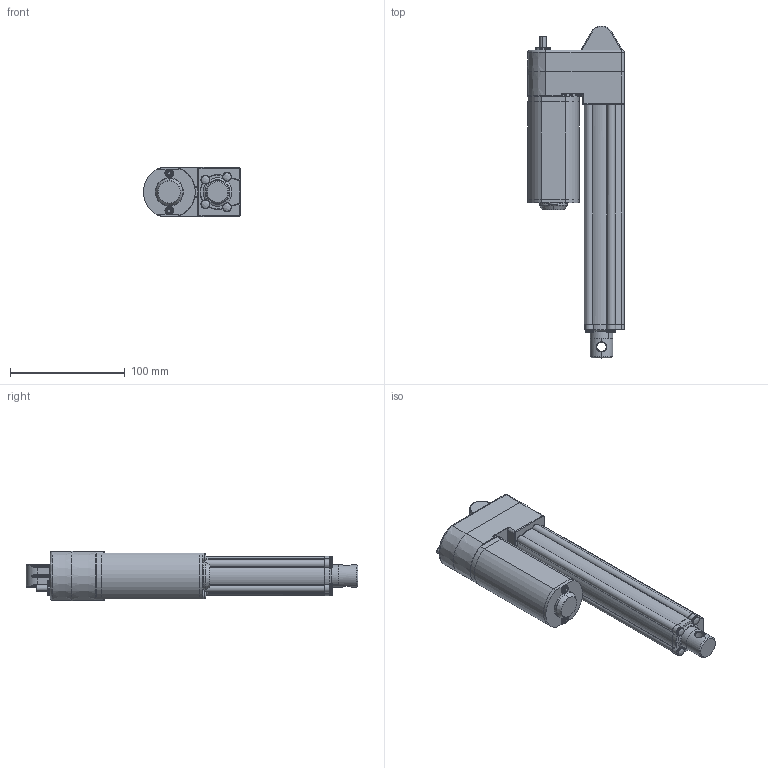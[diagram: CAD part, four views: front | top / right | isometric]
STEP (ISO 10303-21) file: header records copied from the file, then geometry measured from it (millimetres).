
FILE_DESCRIPTION (( 'STEP AP203' ), '1' );
FILE_NAME ('PA21-12-1500-144.STEP', '2026-02-04T01:06:20', ( '' ), ( '' ), 'SwSTEP 2.0', 'SolidWorks 2018', '' );
FILE_SCHEMA (( 'CONFIG_CONTROL_DESIGN' ));
Length unit declared in the file: millimetre
Products named in the file (1): PA21-12-1500-144
Bounding box: 84.7 x 289.84 x 43.13 mm (x, y, z)
Volume: 494008.3 mm3; surface area: 60418.8 mm2
Topology: 1 solids, 1 shells, 560 faces, 1396 edges, 830 vertices
Faces by surface type: cylinder 163, bspline 156, plane 138, torus 69, cone 34
Entity records: 25415 total; most frequent: CARTESIAN_POINT 12949, ORIENTED_EDGE 2764, DIRECTION 2478, EDGE_CURVE 1382, AXIS2_PLACEMENT_3D 1011, VERTEX_POINT 830, CIRCLE 606, EDGE_LOOP 572
